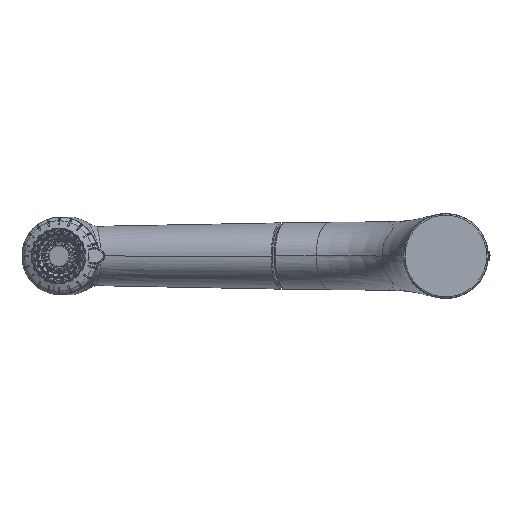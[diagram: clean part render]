
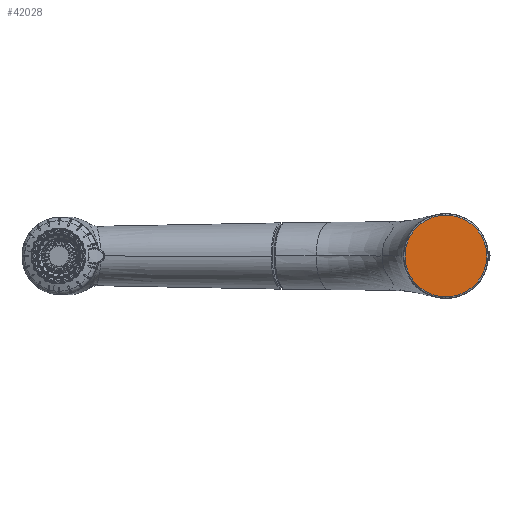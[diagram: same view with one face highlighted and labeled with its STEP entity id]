
A CAD part, left-side view. The second image highlights one B-rep face of the part: STEP entity #42028.
In plain terms, the highlighted planar face has unit normal (-1, 0, 0).
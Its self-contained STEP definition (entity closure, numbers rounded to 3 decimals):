
#791=CARTESIAN_POINT('',(-160.,0.,0.));
#792=DIRECTION('',(-1.,0.,0.));
#793=DIRECTION('',(0.,0.,-1.));
#794=AXIS2_PLACEMENT_3D('',#791,#792,#793);
#796=CARTESIAN_POINT('',(-160.,0.,0.));
#797=DIRECTION('',(-1.,0.,0.));
#798=DIRECTION('',(0.,0.,1.));
#799=AXIS2_PLACEMENT_3D('',#796,#797,#798);
#37063=CARTESIAN_POINT('',(-160.,0.,-23.7));
#37064=CARTESIAN_POINT('',(-160.,0.,23.7));
#37065=VERTEX_POINT('',#37063);
#37066=VERTEX_POINT('',#37064);
#42018=CARTESIAN_POINT('',(-160.,0.,0.));
#42019=DIRECTION('',(-1.,0.,0.));
#42020=DIRECTION('',(0.,-1.,0.));
#42021=AXIS2_PLACEMENT_3D('',#42018,#42019,#42020);
#42022=PLANE('',#42021);
#42023=ORIENTED_EDGE('',*,*,#42008,.F.);
#42025=ORIENTED_EDGE('',*,*,#42024,.F.);
#42026=EDGE_LOOP('',(#42023,#42025));
#42027=FACE_OUTER_BOUND('',#42026,.F.);
#42028=ADVANCED_FACE('',(#42027),#42022,.T.);
#795=CIRCLE('',#794,23.7);
#800=CIRCLE('',#799,23.7);
#42008=EDGE_CURVE('',#37065,#37066,#795,.T.);
#42024=EDGE_CURVE('',#37066,#37065,#800,.T.);
